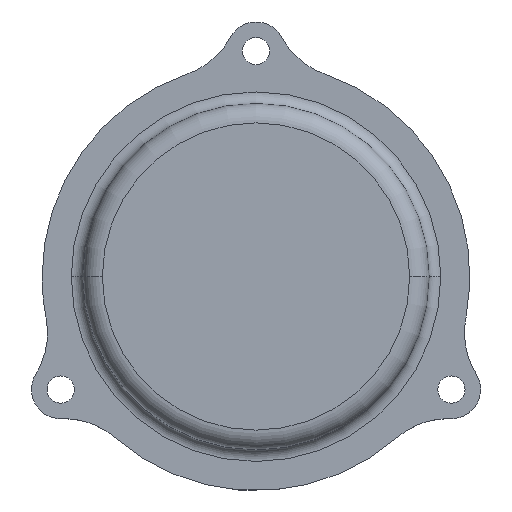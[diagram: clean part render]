
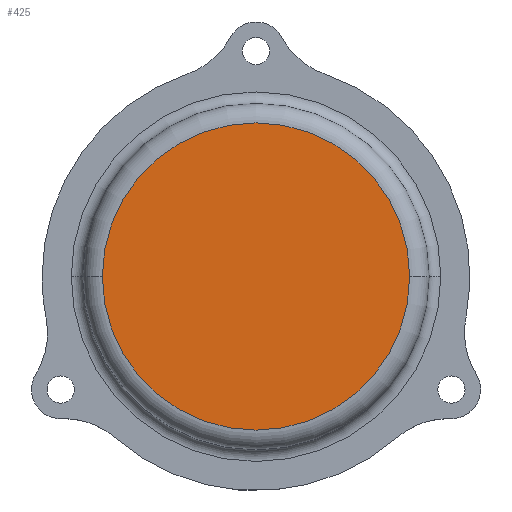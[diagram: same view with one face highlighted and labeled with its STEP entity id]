
A CAD part, top view. The second image highlights one B-rep face of the part: STEP entity #425.
In plain terms, the highlighted planar face has unit normal (0, 0, 1).
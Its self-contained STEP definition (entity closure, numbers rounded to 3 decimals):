
#101 = VERTEX_POINT ( 'NONE', #962 ) ;
#128 = VERTEX_POINT ( 'NONE', #1040 ) ;
#199 = EDGE_CURVE ( 'NONE', #101, #128, #500, .T. ) ;
#302 = AXIS2_PLACEMENT_3D ( 'NONE', #1033, #1101, #1100 ) ;
#330 = EDGE_CURVE ( 'NONE', #128, #101, #481, .T. ) ;
#332 = AXIS2_PLACEMENT_3D ( 'NONE', #1104, #1106, #1064 ) ;
#394 = AXIS2_PLACEMENT_3D ( 'NONE', #825, #822, #850 ) ;
#425 = ADVANCED_FACE ( 'NONE', ( #626 ), #820, .T. ) ;
#460 = ORIENTED_EDGE ( 'NONE', *, *, #199, .T. ) ;
#481 = CIRCLE ( 'NONE', #332, 39.5 ) ;
#500 = CIRCLE ( 'NONE', #302, 39.5 ) ;
#608 = ORIENTED_EDGE ( 'NONE', *, *, #330, .T. ) ;
#626 = FACE_OUTER_BOUND ( 'NONE', #644, .T. ) ;
#644 = EDGE_LOOP ( 'NONE', ( #460, #608 ) ) ;
#820 = PLANE ( 'NONE',  #394 ) ;
#822 = DIRECTION ( 'NONE',  ( 0., 0., 1. ) ) ;
#825 = CARTESIAN_POINT ( 'NONE',  ( 0., 0., 32. ) ) ;
#850 = DIRECTION ( 'NONE',  ( 1., 0., 0. ) ) ;
#962 = CARTESIAN_POINT ( 'NONE',  ( 39.5, 0., 32. ) ) ;
#1033 = CARTESIAN_POINT ( 'NONE',  ( 0., 0., 32. ) ) ;
#1040 = CARTESIAN_POINT ( 'NONE',  ( -39.5, 0., 32. ) ) ;
#1064 = DIRECTION ( 'NONE',  ( 1., 0., 0. ) ) ;
#1100 = DIRECTION ( 'NONE',  ( 1., 0., 0. ) ) ;
#1101 = DIRECTION ( 'NONE',  ( 0., 0., 1. ) ) ;
#1104 = CARTESIAN_POINT ( 'NONE',  ( 0., 0., 32. ) ) ;
#1106 = DIRECTION ( 'NONE',  ( 0., 0., 1. ) ) ;
